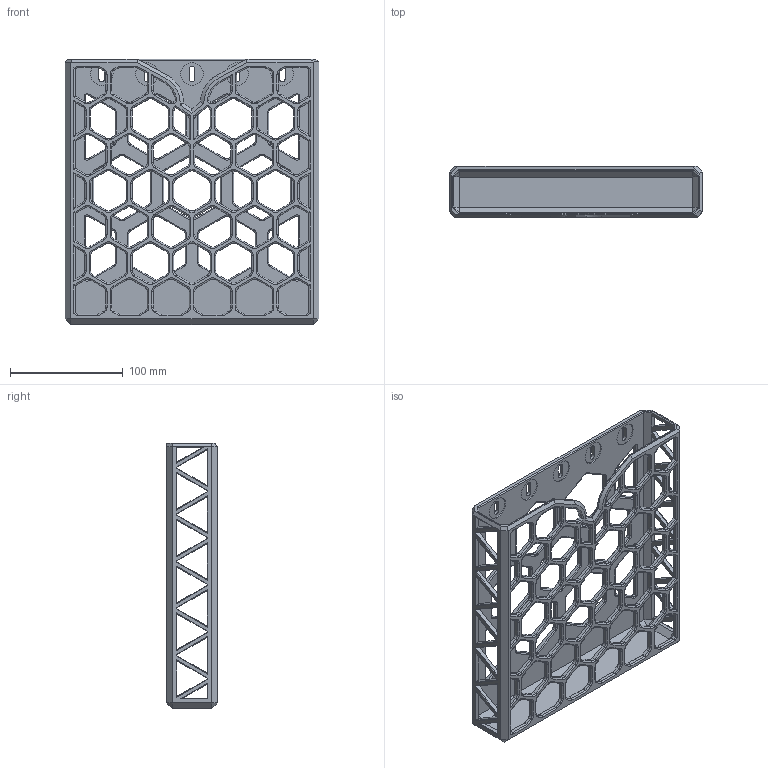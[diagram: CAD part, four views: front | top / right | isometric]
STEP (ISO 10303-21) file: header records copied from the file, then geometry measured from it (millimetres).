
FILE_DESCRIPTION(/* description */ ('STEP AP242','CAx-IF Rec.Pracs.---Representation and Presentation of Product Manufacturing Information (PMI)---4.0---2014-10-13','CAx-IF Rec.Pracs.---3D Tessellated Geometry---0.4---2014-09-14','2;1'),/* implementation_level */ '2;1');
FILE_NAME(/* name */ '68ec9552015b9f1a53b0aad2',/* time_stamp */ '2025-10-13T05:59:48Z',/* author */ (''),/* organization */ (''),/* preprocessor_version */ 'ST-DEVELOPER v20',/* originating_system */ 'ONSHAPE BY PTC INC, 1.205',/* authorisation */ ' ');
FILE_SCHEMA (('AP242_MANAGED_MODEL_BASED_3D_ENGINEERING_MIM_LF { 1 0 10303 442 1 1 4 }'));
Length unit declared in the file: metre
Products named in the file (1): Ikea A4 Paper Holder
Bounding box: 225 x 45 x 235 mm (x, y, z)
Volume: 265117.6 mm3; surface area: 158981.6 mm2
Topology: 1 solids, 1 shells, 1510 faces, 3762 edges, 2215 vertices
Faces by surface type: cylinder 721, plane 509, torus 275, bspline 3, cone 2
Full cylindrical faces by diameter (mm): 20.2 x5
Entity records: 44740 total; most frequent: DIRECTION 8304, CARTESIAN_POINT 7615, ORIENTED_EDGE 7510, EDGE_CURVE 3755, AXIS2_PLACEMENT_3D 3061, VERTEX_POINT 2215, LINE 2182, VECTOR 2182
